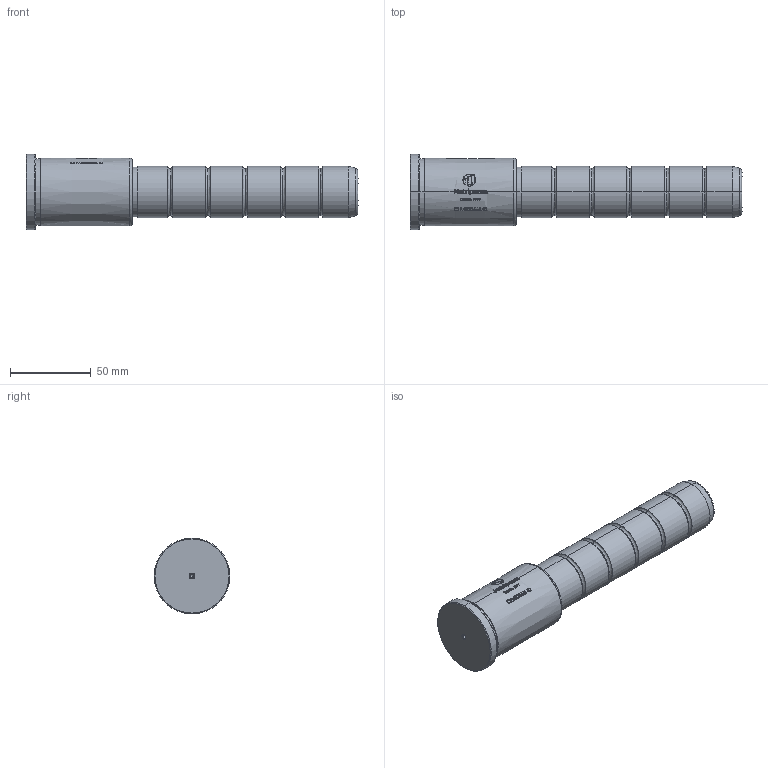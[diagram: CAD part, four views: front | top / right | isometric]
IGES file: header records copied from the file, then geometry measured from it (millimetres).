
Start section: SolidWorks IGES file using analytic representation for surfaces
Global section: file name: C:\Users\Windows 10 PRO\Downloads\CFM - 10-09\CFM  - Nova\32\CFM32066140.IGS; native system: SolidWorks 2024; preprocessor: SolidWorks 2024; author: Windows 10 PRO; date: 260910.214340; units: millimetre
Bounding box: 206 x 47 x 47 mm (x, y, z)
Surface area: 27042 mm2 (no closed solid volume)
Topology: 0 solids, 0 shells, 520 faces, 5569 edges, 5565 vertices
Faces by surface type: bspline 415, revolution 105
